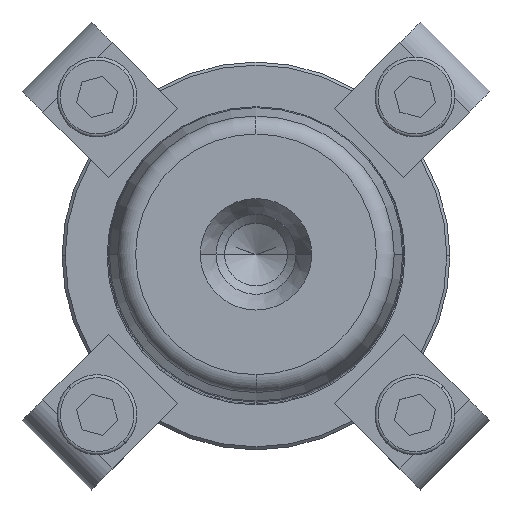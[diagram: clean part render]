
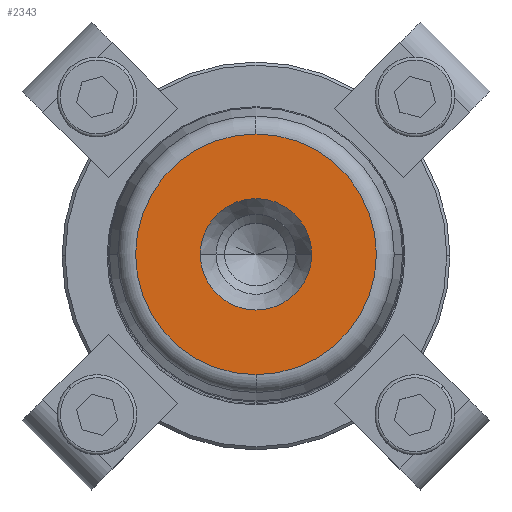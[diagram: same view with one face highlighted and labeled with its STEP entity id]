
A CAD part, top view. The second image highlights one B-rep face of the part: STEP entity #2343.
In plain terms, the highlighted planar face has unit normal (0, 0, 1).
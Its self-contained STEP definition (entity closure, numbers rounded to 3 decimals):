
#431=CARTESIAN_POINT('',(9.05,0.,160.0));
#432=VERTEX_POINT('',#431);
#439=CARTESIAN_POINT('',(-9.05,0.,160.0));
#440=VERTEX_POINT('',#439);
#441=CARTESIAN_POINT('',(0.0,0.,160.0));
#442=DIRECTION('',(0.0,0.0,1.0));
#443=DIRECTION('',(1.0,0.0,0.0));
#444=AXIS2_PLACEMENT_3D('',#441,#442,#443);
#445=CIRCLE('',#444,9.05);
#446=EDGE_CURVE('',#432,#440,#445,.T.);
#463=CARTESIAN_POINT('',(0.0,-19.554,160.0));
#464=VERTEX_POINT('',#463);
#474=CARTESIAN_POINT('',(0.,19.554,160.0));
#475=VERTEX_POINT('',#474);
#476=CARTESIAN_POINT('',(0.0,0.,160.0));
#477=DIRECTION('',(0.0,0.0,1.0));
#478=DIRECTION('',(1.0,0.0,0.0));
#479=AXIS2_PLACEMENT_3D('',#476,#477,#478);
#480=CIRCLE('',#479,19.554);
#481=EDGE_CURVE('',#475,#464,#480,.T.);
#2304=CARTESIAN_POINT('',(19.554,0.,160.0));
#2305=VERTEX_POINT('',#2304);
#2306=CARTESIAN_POINT('',(0.0,0.,160.0));
#2307=DIRECTION('',(0.0,0.0,1.0));
#2308=DIRECTION('',(1.0,0.0,0.0));
#2309=AXIS2_PLACEMENT_3D('',#2306,#2307,#2308);
#2310=CIRCLE('',#2309,19.554);
#2311=EDGE_CURVE('',#2305,#475,#2310,.T.);
#2313=CARTESIAN_POINT('',(0.0,0.,160.0));
#2314=DIRECTION('',(0.0,0.0,1.0));
#2315=DIRECTION('',(1.0,0.0,0.0));
#2316=AXIS2_PLACEMENT_3D('',#2313,#2314,#2315);
#2317=CIRCLE('',#2316,19.554);
#2318=EDGE_CURVE('',#464,#2305,#2317,.T.);
#2323=CARTESIAN_POINT('',(14.302,0.,160.0));
#2324=DIRECTION('',(0.0,0.0,1.0));
#2325=DIRECTION('',(0.0,-1.0,0.0));
#2326=AXIS2_PLACEMENT_3D('',#2323,#2324,#2325);
#2327=PLANE('',#2326);
#2328=ORIENTED_EDGE('',*,*,#2311,.T.);
#2329=ORIENTED_EDGE('',*,*,#481,.T.);
#2330=ORIENTED_EDGE('',*,*,#2318,.T.);
#2331=EDGE_LOOP('',(#2328,#2329,#2330));
#2332=FACE_OUTER_BOUND('',#2331,.T.);
#2333=ORIENTED_EDGE('',*,*,#446,.F.);
#2334=CARTESIAN_POINT('',(0.0,0.,160.0));
#2335=DIRECTION('',(0.0,0.0,1.0));
#2336=DIRECTION('',(1.0,0.0,0.0));
#2337=AXIS2_PLACEMENT_3D('',#2334,#2335,#2336);
#2338=CIRCLE('',#2337,9.05);
#2339=EDGE_CURVE('',#440,#432,#2338,.T.);
#2340=ORIENTED_EDGE('',*,*,#2339,.F.);
#2341=EDGE_LOOP('',(#2333,#2340));
#2342=FACE_BOUND('',#2341,.T.);
#2343=ADVANCED_FACE('',(#2332,#2342),#2327,.T.);
